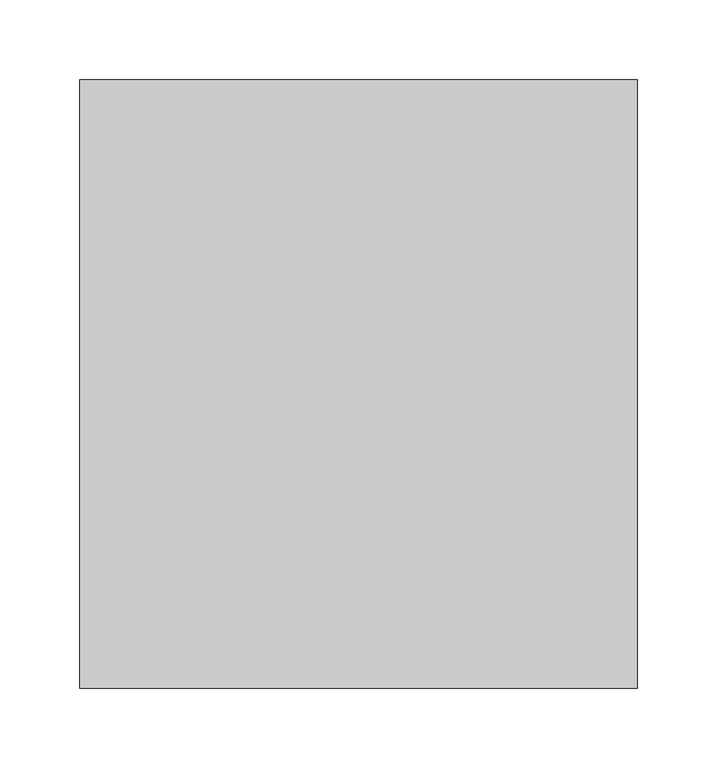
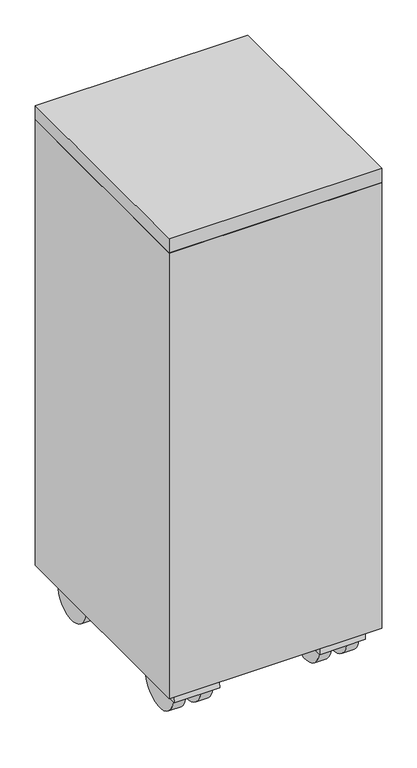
"""IFC4 building model written with IfcOpenShell, lengths in millimetres: proxy geometry, BIMHealth-500x350mm_Suction_Cabinet-LOD2A-v1 : BIMHealth-500x350mm_Suction_Cabinet-LOD2A-v1."""

from ifc_helpers import new_model, si_unit, point, frame, frame_2d, origin, place, context, project, spatial, polyline, circle_curve, trimmed, segment, composite_curve, outline, extrude, source, transform, mapped, element, save


def generic_models_83ba9ecb(model_context):
    return source(origin(), model_context, "Body", "SweptSolid", [
        extrude(outline(composite_curve([segment(trimmed(circle_curve(frame_2d((117.2063616, 61.9315325)), 7.5), [point((109.7063616, 61.9315325))], [point((124.7063616, 61.9315325))], False, "CARTESIAN"), True, "CONTINUOUS"), segment(trimmed(circle_curve(frame_2d((117.2063616, 61.9315325)), 7.5), [point((124.7063616, 61.9315325))], [point((109.7063616, 61.9315325))], False, "CARTESIAN"), True, "CONTINUOUS")], self_intersect=False)), frame((0.0, 0.0, 102.2775188), z_axis=(0.0, 0.0, 1.0), x_axis=(1.0, 0.0, 0.0)), (0.0, 0.0, 1.0), 20.0),
        extrude(outline(composite_curve([segment(polyline([(91.187933, 102.2775188), (91.187933, 80.5470471)]), True, "CONTINUOUS"), segment(trimmed(circle_curve(frame_2d((61.9315325, 40.0)), 50.0), [point((91.187933, 80.5470471))], [point((32.675132, 80.5470471))], True, "CARTESIAN"), True, "CONTINUOUS"), segment(polyline([(32.675132, 80.5470471), (32.675132, 102.2775188), (91.187933, 102.2775188)]), True, "CONTINUOUS")], self_intersect=False)), frame((94.5806979, 0.0, 0.0), z_axis=(1.0, 0.0, 0.0), x_axis=(0.0, 1.0, 0.0)), (0.0, 0.0, 1.0), 45.2513275),
        extrude(outline(composite_curve([segment(trimmed(circle_curve(frame_2d((61.9315325, 40.0)), 40.0), [point((101.9315325, 40.0))], [point((21.9315325, 40.0))], True, "CARTESIAN"), True, "CONTINUOUS"), segment(polyline([(21.9315325, 40.0), (11.9315325, 40.0)]), True, "CONTINUOUS"), segment(trimmed(circle_curve(frame_2d((61.9315325, 40.0)), 50.0), [point((11.9315325, 40.0))], [point((111.9315325, 40.0))], False, "CARTESIAN"), True, "CONTINUOUS"), segment(polyline([(111.9315325, 40.0), (101.9315325, 40.0)]), True, "CONTINUOUS")], self_intersect=False)), frame((80.0, 0.0, 0.0), z_axis=(1.0, 0.0, 0.0), x_axis=(0.0, 1.0, 0.0)), (0.0, 0.0, 1.0), 75.0),
        extrude(outline(composite_curve([segment(trimmed(circle_curve(frame_2d((61.9315325, 40.0)), 40.0), [point((21.9315325, 40.0))], [point((101.9315325, 40.0))], False, "CARTESIAN"), True, "CONTINUOUS"), segment(trimmed(circle_curve(frame_2d((61.9315325, 40.0)), 40.0), [point((101.9315325, 40.0))], [point((21.9315325, 40.0))], False, "CARTESIAN"), True, "CONTINUOUS")], self_intersect=False)), frame((130.0, 0.0, 0.0), z_axis=(1.0, 0.0, 0.0), x_axis=(0.0, 1.0, 0.0)), (0.0, 0.0, 1.0), 20.0),
        extrude(outline(composite_curve([segment(trimmed(circle_curve(frame_2d((61.9315325, 40.0)), 40.0), [point((21.9315325, 40.0))], [point((101.9315325, 40.0))], False, "CARTESIAN"), True, "CONTINUOUS"), segment(trimmed(circle_curve(frame_2d((61.9315325, 40.0)), 40.0), [point((101.9315325, 40.0))], [point((21.9315325, 40.0))], False, "CARTESIAN"), True, "CONTINUOUS")], self_intersect=False)), frame((85.0, 0.0, 0.0), z_axis=(1.0, 0.0, 0.0), x_axis=(0.0, 1.0, 0.0)), (0.0, 0.0, 1.0), 20.0),
        extrude(outline(composite_curve([segment(trimmed(circle_curve(frame_2d((-122.7936384, 61.9315325)), 7.5), [point((-130.2936384, 61.9315325))], [point((-115.2936384, 61.9315325))], False, "CARTESIAN"), True, "CONTINUOUS"), segment(trimmed(circle_curve(frame_2d((-122.7936384, 61.9315325)), 7.5), [point((-115.2936384, 61.9315325))], [point((-130.2936384, 61.9315325))], False, "CARTESIAN"), True, "CONTINUOUS")], self_intersect=False)), frame((0.0, 0.0, 102.2775188), z_axis=(0.0, 0.0, 1.0), x_axis=(1.0, 0.0, 0.0)), (0.0, 0.0, 1.0), 20.0),
        extrude(outline(composite_curve([segment(polyline([(91.187933, 102.2775188), (91.187933, 80.5470471)]), True, "CONTINUOUS"), segment(trimmed(circle_curve(frame_2d((61.9315325, 40.0)), 50.0), [point((91.187933, 80.5470471))], [point((32.675132, 80.5470471))], True, "CARTESIAN"), True, "CONTINUOUS"), segment(polyline([(32.675132, 80.5470471), (32.675132, 102.2775188), (91.187933, 102.2775188)]), True, "CONTINUOUS")], self_intersect=False)), frame((-145.4193021, 0.0, 0.0), z_axis=(1.0, 0.0, 0.0), x_axis=(0.0, 1.0, 0.0)), (0.0, 0.0, 1.0), 45.2513275),
        extrude(outline(composite_curve([segment(trimmed(circle_curve(frame_2d((61.9315325, 40.0)), 40.0), [point((101.9315325, 40.0))], [point((21.9315325, 40.0))], True, "CARTESIAN"), True, "CONTINUOUS"), segment(polyline([(21.9315325, 40.0), (11.9315325, 40.0)]), True, "CONTINUOUS"), segment(trimmed(circle_curve(frame_2d((61.9315325, 40.0)), 50.0), [point((11.9315325, 40.0))], [point((111.9315325, 40.0))], False, "CARTESIAN"), True, "CONTINUOUS"), segment(polyline([(111.9315325, 40.0), (101.9315325, 40.0)]), True, "CONTINUOUS")], self_intersect=False)), frame((-160.0, 0.0, 0.0), z_axis=(1.0, 0.0, 0.0), x_axis=(0.0, 1.0, 0.0)), (0.0, 0.0, 1.0), 75.0),
        extrude(outline(composite_curve([segment(trimmed(circle_curve(frame_2d((61.9315325, 40.0)), 40.0), [point((21.9315325, 40.0))], [point((101.9315325, 40.0))], False, "CARTESIAN"), True, "CONTINUOUS"), segment(trimmed(circle_curve(frame_2d((61.9315325, 40.0)), 40.0), [point((101.9315325, 40.0))], [point((21.9315325, 40.0))], False, "CARTESIAN"), True, "CONTINUOUS")], self_intersect=False)), frame((-110.0, 0.0, 0.0), z_axis=(1.0, 0.0, 0.0), x_axis=(0.0, 1.0, 0.0)), (0.0, 0.0, 1.0), 20.0),
        extrude(outline(composite_curve([segment(trimmed(circle_curve(frame_2d((61.9315325, 40.0)), 40.0), [point((21.9315325, 40.0))], [point((101.9315325, 40.0))], False, "CARTESIAN"), True, "CONTINUOUS"), segment(trimmed(circle_curve(frame_2d((61.9315325, 40.0)), 40.0), [point((101.9315325, 40.0))], [point((21.9315325, 40.0))], False, "CARTESIAN"), True, "CONTINUOUS")], self_intersect=False)), frame((-155.0, 0.0, 0.0), z_axis=(1.0, 0.0, 0.0), x_axis=(0.0, 1.0, 0.0)), (0.0, 0.0, 1.0), 20.0),
        extrude(outline(composite_curve([segment(trimmed(circle_curve(frame_2d((117.2063616, 312.0)), 7.5), [point((109.7063616, 312.0))], [point((124.7063616, 312.0))], False, "CARTESIAN"), True, "CONTINUOUS"), segment(trimmed(circle_curve(frame_2d((117.2063616, 312.0)), 7.5), [point((124.7063616, 312.0))], [point((109.7063616, 312.0))], False, "CARTESIAN"), True, "CONTINUOUS")], self_intersect=False)), frame((0.0, 0.0, 102.2775188), z_axis=(0.0, 0.0, 1.0), x_axis=(1.0, 0.0, 0.0)), (0.0, 0.0, 1.0), 20.0),
        extrude(outline(composite_curve([segment(polyline([(282.7435995, 102.2775188), (341.2564005, 102.2775188), (341.2564005, 80.5470471)]), True, "CONTINUOUS"), segment(trimmed(circle_curve(frame_2d((312.0, 40.0)), 50.0), [point((341.2564005, 80.5470471))], [point((282.7435995, 80.5470471))], True, "CARTESIAN"), True, "CONTINUOUS"), segment(polyline([(282.7435995, 80.5470471), (282.7435995, 102.2775188)]), True, "CONTINUOUS")], self_intersect=False)), frame((94.5806979, 0.0, 0.0), z_axis=(1.0, 0.0, 0.0), x_axis=(0.0, 1.0, 0.0)), (0.0, 0.0, 1.0), 45.2513275),
        extrude(outline(composite_curve([segment(polyline([(272.0, 40.0), (262.0, 40.0)]), True, "CONTINUOUS"), segment(trimmed(circle_curve(frame_2d((312.0, 40.0)), 50.0), [point((262.0, 40.0))], [point((362.0, 40.0))], False, "CARTESIAN"), True, "CONTINUOUS"), segment(polyline([(362.0, 40.0), (352.0, 40.0)]), True, "CONTINUOUS"), segment(trimmed(circle_curve(frame_2d((312.0, 40.0)), 40.0), [point((352.0, 40.0))], [point((272.0, 40.0))], True, "CARTESIAN"), True, "CONTINUOUS")], self_intersect=False)), frame((80.0, 0.0, 0.0), z_axis=(1.0, 0.0, 0.0), x_axis=(0.0, 1.0, 0.0)), (0.0, 0.0, 1.0), 75.0),
        extrude(outline(composite_curve([segment(trimmed(circle_curve(frame_2d((312.0, 40.0)), 40.0), [point((352.0, 40.0))], [point((272.0, 40.0))], False, "CARTESIAN"), True, "CONTINUOUS"), segment(trimmed(circle_curve(frame_2d((312.0, 40.0)), 40.0), [point((272.0, 40.0))], [point((352.0, 40.0))], False, "CARTESIAN"), True, "CONTINUOUS")], self_intersect=False)), frame((130.0, 0.0, 0.0), z_axis=(1.0, 0.0, 0.0), x_axis=(0.0, 1.0, 0.0)), (0.0, 0.0, 1.0), 20.0),
        extrude(outline(composite_curve([segment(trimmed(circle_curve(frame_2d((312.0, 40.0)), 40.0), [point((352.0, 40.0))], [point((272.0, 40.0))], False, "CARTESIAN"), True, "CONTINUOUS"), segment(trimmed(circle_curve(frame_2d((312.0, 40.0)), 40.0), [point((272.0, 40.0))], [point((352.0, 40.0))], False, "CARTESIAN"), True, "CONTINUOUS")], self_intersect=False)), frame((85.0, 0.0, 0.0), z_axis=(1.0, 0.0, 0.0), x_axis=(0.0, 1.0, 0.0)), (0.0, 0.0, 1.0), 20.0),
        extrude(outline(composite_curve([segment(trimmed(circle_curve(frame_2d((-122.7936384, 312.0)), 7.5), [point((-130.2936384, 312.0))], [point((-115.2936384, 312.0))], False, "CARTESIAN"), True, "CONTINUOUS"), segment(trimmed(circle_curve(frame_2d((-122.7936384, 312.0)), 7.5), [point((-115.2936384, 312.0))], [point((-130.2936384, 312.0))], False, "CARTESIAN"), True, "CONTINUOUS")], self_intersect=False)), frame((0.0, 0.0, 102.2775188), z_axis=(0.0, 0.0, 1.0), x_axis=(1.0, 0.0, 0.0)), (0.0, 0.0, 1.0), 20.0),
        extrude(outline(composite_curve([segment(polyline([(282.7435995, 102.2775188), (341.2564005, 102.2775188), (341.2564005, 80.5470471)]), True, "CONTINUOUS"), segment(trimmed(circle_curve(frame_2d((312.0, 40.0)), 50.0), [point((341.2564005, 80.5470471))], [point((282.7435995, 80.5470471))], True, "CARTESIAN"), True, "CONTINUOUS"), segment(polyline([(282.7435995, 80.5470471), (282.7435995, 102.2775188)]), True, "CONTINUOUS")], self_intersect=False)), frame((-145.4193021, 0.0, 0.0), z_axis=(1.0, 0.0, 0.0), x_axis=(0.0, 1.0, 0.0)), (0.0, 0.0, 1.0), 45.2513275),
        extrude(outline(composite_curve([segment(polyline([(272.0, 40.0), (262.0, 40.0)]), True, "CONTINUOUS"), segment(trimmed(circle_curve(frame_2d((312.0, 40.0)), 50.0), [point((262.0, 40.0))], [point((362.0, 40.0))], False, "CARTESIAN"), True, "CONTINUOUS"), segment(polyline([(362.0, 40.0), (352.0, 40.0)]), True, "CONTINUOUS"), segment(trimmed(circle_curve(frame_2d((312.0, 40.0)), 40.0), [point((352.0, 40.0))], [point((272.0, 40.0))], True, "CARTESIAN"), True, "CONTINUOUS")], self_intersect=False)), frame((-160.0, 0.0, 0.0), z_axis=(1.0, 0.0, 0.0), x_axis=(0.0, 1.0, 0.0)), (0.0, 0.0, 1.0), 75.0),
        extrude(outline(composite_curve([segment(trimmed(circle_curve(frame_2d((312.0, 40.0)), 40.0), [point((352.0, 40.0))], [point((272.0, 40.0))], False, "CARTESIAN"), True, "CONTINUOUS"), segment(trimmed(circle_curve(frame_2d((312.0, 40.0)), 40.0), [point((272.0, 40.0))], [point((352.0, 40.0))], False, "CARTESIAN"), True, "CONTINUOUS")], self_intersect=False)), frame((-110.0, 0.0, 0.0), z_axis=(1.0, 0.0, 0.0), x_axis=(0.0, 1.0, 0.0)), (0.0, 0.0, 1.0), 20.0),
        extrude(outline(composite_curve([segment(trimmed(circle_curve(frame_2d((312.0, 40.0)), 40.0), [point((352.0, 40.0))], [point((272.0, 40.0))], False, "CARTESIAN"), True, "CONTINUOUS"), segment(trimmed(circle_curve(frame_2d((312.0, 40.0)), 40.0), [point((272.0, 40.0))], [point((352.0, 40.0))], False, "CARTESIAN"), True, "CONTINUOUS")], self_intersect=False)), frame((-155.0, 0.0, 0.0), z_axis=(1.0, 0.0, 0.0), x_axis=(0.0, 1.0, 0.0)), (0.0, 0.0, 1.0), 20.0),
        extrude(outline(polyline([(175.0, 0.0), (-175.0, 0.0), (-175.0, 382.0), (175.0, 382.0), (175.0, 0.0)])), frame((0.0, 0.0, 60.0), z_axis=(0.0, 0.0, 1.0), x_axis=(1.0, 0.0, 0.0)), (0.0, 0.0, 1.0), 775.0),
        extrude(outline(polyline([(175.0, 382.0), (175.0, 0.0), (-175.0, 0.0), (-175.0, 382.0), (175.0, 382.0)])), frame((0.0, 0.0, 835.0), z_axis=(0.0, 0.0, 1.0), x_axis=(1.0, 0.0, 0.0)), (0.0, 0.0, 1.0), 25.0),
    ])


if __name__ == "__main__":
    model = new_model("IFC4")
    model_context = context("Model", 3, world=origin())
    ifc_project = project(units=[si_unit("LENGTHUNIT", "METRE", prefix="MILLI")], contexts=[model_context])
    site = spatial("IfcSite", under=ifc_project)
    building = spatial("IfcBuilding", under=site)
    placement = place(None, origin())
    generic_models_shape = generic_models_83ba9ecb(model_context)
    element("IfcBuildingElementProxy", 1, Name="BIMHealth-500x350mm_Suction_Cabinet-LOD2A-v1 : BIMHealth-500x350mm_Suction_Cabinet-LOD2A-v1", ObjectType="BIMHealth-500x350mm_Suction_Cabinet-LOD2A-v1 : BIMHealth-500x350mm_Suction_Cabinet-LOD2A-v1", at=placement, inside=building, context=model_context, shape_type="MappedRepresentation", body=[
        mapped(generic_models_shape, transform((0.0, 0.0, 0.0), x_axis=(1.0, 0.0, 0.0), y_axis=(0.0, 1.0, 0.0), z_axis=(0.0, 0.0, 1.0))),
    ])
    save(model, "model.ifc")
